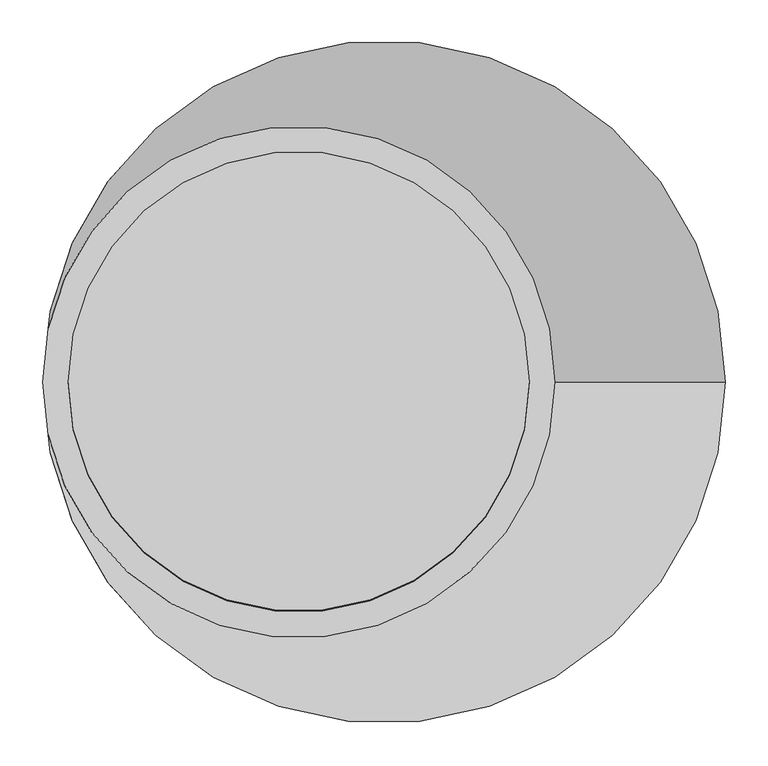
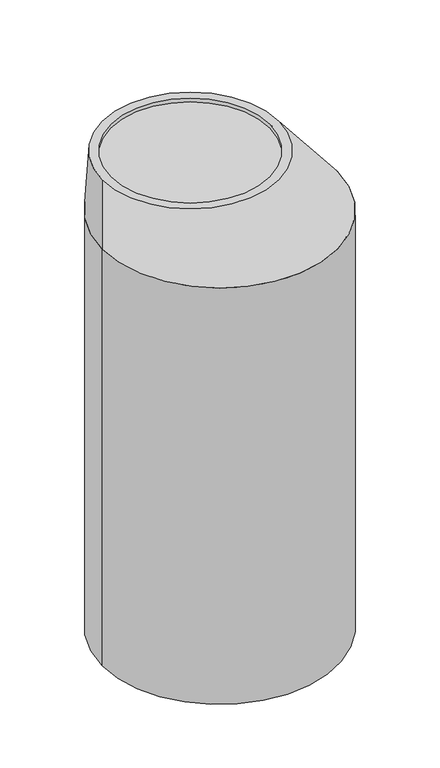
"""IFC4 building model written with IfcOpenShell, lengths in millimetres: flow terminal geometry, Schlammsammler : Strassenablauf (Schlammsammler)."""

from ifc_helpers import new_model, si_unit, point, frame, frame_2d, origin, origin_with_axes, place, context, project, spatial, circle_curve, trimmed, segment, composite_curve, outline, extrude, source, transform, mapped, element, save
from ifc_brep_helpers import plane_surface, spline_surface, advanced_brep


def flow_terminal_ff592e24(model_context):
    return source(origin(), model_context, "Body", "SolidModel", [
        advanced_brep(
        [(-300.0, 0.0, 0.0), (300.0, 0.0, 0.0), (-270.0, 0.0, 0.0), (270.0, 0.0, 0.0), (-300.0, 0.0, -250.0), (500.0, 0.0, -250.0), (470.0, 0.0, -250.0), (-270.0, 0.0, -250.0)],
        [
            (0, 1, circle_curve(origin_with_axes(), 300.0)),
            (1, 0, circle_curve(origin_with_axes(), 300.0)),
            (2, 3, circle_curve(frame((0.0, 0.0, 0.0), z_axis=(0.0, 0.0, -1.0), x_axis=(1.0, 0.0, 0.0)), 270.0)),
            (3, 2, circle_curve(frame((0.0, 0.0, 0.0), z_axis=(0.0, 0.0, -1.0), x_axis=(1.0, 0.0, 0.0)), 270.0)),
            (4, 5, circle_curve(frame((100.0, 0.0, -250.0), z_axis=(0.0, 0.0, -1.0), x_axis=(1.0, 0.0, 0.0)), 400.0)),
            (5, 4, circle_curve(frame((100.0, 0.0, -250.0), z_axis=(0.0, 0.0, -1.0), x_axis=(1.0, 0.0, 0.0)), 400.0)),
            (6, 7, circle_curve(frame((100.0, 0.0, -250.0), z_axis=(0.0, 0.0, 1.0), x_axis=(1.0, 0.0, 0.0)), 370.0)),
            (7, 6, circle_curve(frame((100.0, 0.0, -250.0), z_axis=(0.0, 0.0, 1.0), x_axis=(1.0, 0.0, 0.0)), 370.0)),
            (1, 5),
            (4, 0),
            (7, 2),
            (3, 6),
        ],
        [
            plane_surface(frame((0.0, 0.0, 0.0), z_axis=(0.0, 0.0, 1.0), x_axis=(0.0, 1.0, 0.0))),
            plane_surface(frame((100.0, 0.0, -250.0), z_axis=(0.0, 0.0, -1.0), x_axis=(0.0, 1.0, 0.0))),
            spline_surface(1, 2, [[(-300.0, 0.0, -250.0), (-300.0, 400.0, -250.0), (100.0, 400.0, -250.0), (500.0, 400.0, -250.0), (500.0, 0.0, -250.0)], [(-300.0, 0.0, 0.0), (-300.0, 300.0, 0.0), (0.0, 300.0, 0.0), (300.0, 300.0, 0.0), (300.0, 0.0, 0.0)]], [2, 2], [3, 2, 3], [0.0, 1.0], [0.0, 1.0, 2.0], weights=[[1.0, 0.7071067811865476, 1.0, 0.7071067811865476, 1.0], [1.0, 0.7071067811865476, 1.0, 0.7071067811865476, 1.0]]),
            spline_surface(1, 2, [[(500.0, 0.0, -250.0), (500.0, -400.0, -250.0), (100.0, -400.0, -250.0), (-300.0, -400.0, -250.0), (-300.0, 0.0, -250.0)], [(300.0, 0.0, 0.0), (300.0, -300.0, 0.0), (0.0, -300.0, 0.0), (-300.0, -300.0, 0.0), (-300.0, 0.0, 0.0)]], [2, 2], [3, 2, 3], [0.0, 1.0], [0.0, 1.0, 2.0], weights=[[1.0, 0.7071067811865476, 1.0, 0.7071067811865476, 1.0], [1.0, 0.7071067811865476, 1.0, 0.7071067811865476, 1.0]]),
            spline_surface(2, 1, [[(470.0, 0.0, -250.0), (270.0, 0.0, 0.0)], [(470.0, -370.0, -250.0), (270.0, -270.0, 0.0)], [(100.0, -370.0, -250.0), (0.0, -270.0, 0.0)], [(-270.0, -370.0, -250.0), (-270.0, -270.0, 0.0)], [(-270.0, 0.0, -250.0), (-270.0, 0.0, 0.0)]], [3, 2, 3], [2, 2], [0.0, 1.0, 2.0], [0.0, 1.0], weights=[[1.0, 1.0], [0.7071067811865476, 0.7071067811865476], [1.0, 1.0], [0.7071067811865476, 0.7071067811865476], [1.0, 1.0]]),
            spline_surface(2, 1, [[(-270.0, 0.0, -250.0), (-270.0, 0.0, 0.0)], [(-270.0, 370.0, -250.0), (-270.0, 270.0, 0.0)], [(100.0, 370.0, -250.0), (0.0, 270.0, 0.0)], [(470.0, 370.0, -250.0), (270.0, 270.0, 0.0)], [(470.0, 0.0, -250.0), (270.0, 0.0, 0.0)]], [3, 2, 3], [2, 2], [0.0, 1.0, 2.0], [0.0, 1.0], weights=[[1.0, 1.0], [0.7071067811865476, 0.7071067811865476], [1.0, 1.0], [0.7071067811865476, 0.7071067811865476], [1.0, 1.0]]),
        ],
        [
            (0, [[1, 2], [3, 4]]),
            (1, [[5, 6], [7, 8]]),
            (2, [[9, -5, 10, -2]]),
            (3, [[-10, -6, -9, -1]]),
            (4, [[-8, 11, -4, 12]]),
            (5, [[-3, -11, -7, -12]]),
        ],
    ),
        extrude(outline(composite_curve([segment(trimmed(circle_curve(frame_2d((100.0, 0.0)), 370.0), [point((-270.0, 0.0))], [point((470.0, 0.0))], False, "CARTESIAN"), True, "CONTINUOUS"), segment(trimmed(circle_curve(frame_2d((100.0, 0.0)), 370.0), [point((470.0, 0.0))], [point((-270.0, 0.0))], False, "CARTESIAN"), True, "CONTINUOUS")], self_intersect=False)), frame((0.0, 0.0, -1750.0), z_axis=(0.0, 0.0, 1.0), x_axis=(1.0, 0.0, 0.0)), (0.0, 0.0, 1.0), 50.0),
        extrude(outline(composite_curve([segment(trimmed(circle_curve(frame_2d((0.0, 1.1120167)), 270.0), [point((270.0, 1.1120167))], [point((-270.0, 1.1120167))], False, "CARTESIAN"), True, "CONTINUOUS"), segment(trimmed(circle_curve(frame_2d((0.0, 1.1120167)), 270.0), [point((-270.0, 1.1120167))], [point((270.0, 1.1120167))], False, "CARTESIAN"), True, "CONTINUOUS")], self_intersect=False)), frame((0.0, 0.0, -43.6655101), z_axis=(0.0, 0.0, 1.0), x_axis=(1.0, 0.0, 0.0)), (0.0, 0.0, 1.0), 28.9841859),
        extrude(outline(composite_curve([segment(trimmed(circle_curve(frame_2d((100.0, 0.0)), 400.0), [point((500.0, 0.0))], [point((-300.0, 0.0))], False, "CARTESIAN"), True, "CONTINUOUS"), segment(trimmed(circle_curve(frame_2d((100.0, 0.0)), 400.0), [point((-300.0, 0.0))], [point((500.0, 0.0))], False, "CARTESIAN"), True, "CONTINUOUS")], self_intersect=False), holes=[composite_curve([segment(trimmed(circle_curve(frame_2d((100.0, 0.0)), 370.0), [point((470.0, 0.0))], [point((-270.0, 0.0))], True, "CARTESIAN"), True, "CONTINUOUS"), segment(trimmed(circle_curve(frame_2d((100.0, 0.0)), 370.0), [point((-270.0, 0.0))], [point((470.0, 0.0))], True, "CARTESIAN"), True, "CONTINUOUS")], self_intersect=False)]), frame((0.0, 0.0, -1750.0), z_axis=(0.0, 0.0, 1.0), x_axis=(1.0, 0.0, 0.0)), (0.0, 0.0, 1.0), 1500.0),
    ])


if __name__ == "__main__":
    model = new_model("IFC4")
    model_context = context("Model", 3, world=origin())
    ifc_project = project(units=[si_unit("LENGTHUNIT", "METRE", prefix="MILLI")], contexts=[model_context])
    site = spatial("IfcSite", under=ifc_project)
    building = spatial("IfcBuilding", under=site)
    placement = place(None, origin())
    flow_terminal_shape = flow_terminal_ff592e24(model_context)
    element("IfcFlowTerminal", 1, ObjectType="Schlammsammler : Strassenablauf (Schlammsammler)", at=placement, inside=building, context=model_context, shape_type="MappedRepresentation", body=[
        mapped(flow_terminal_shape, transform((0.0, 0.0, 0.0), x_axis=(1.0, 0.0, 0.0), y_axis=(0.0, 1.0, 0.0), z_axis=(0.0, 0.0, 1.0))),
    ])
    save(model, "model.ifc")
